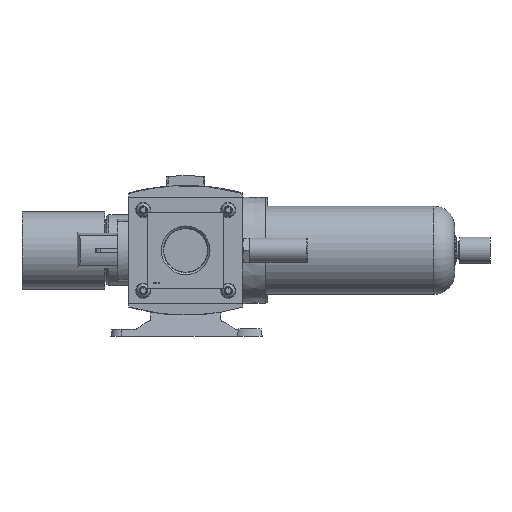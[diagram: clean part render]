
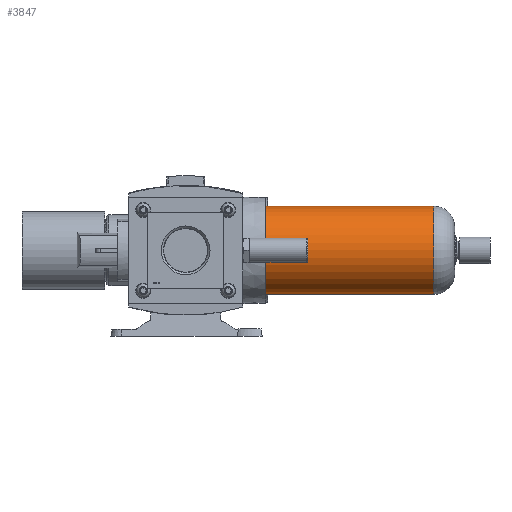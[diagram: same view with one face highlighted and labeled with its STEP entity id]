
A CAD part, left-side view. The second image highlights one B-rep face of the part: STEP entity #3847.
In plain terms, the highlighted cylindrical face has radius 31.75 mm (diameter 63.5 mm), a full revolution.
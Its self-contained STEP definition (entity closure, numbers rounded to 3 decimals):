
#3847 = ADVANCED_FACE( '', ( #7780, #7781 ), #7782, .T. );
#7780 = FACE_OUTER_BOUND( '', #11751, .T. );
#7781 = FACE_OUTER_BOUND( '', #11752, .T. );
#7782 = CYLINDRICAL_SURFACE( '', #11753, 31.75 );
#11751 = EDGE_LOOP( '', ( #21500 ) );
#11752 = EDGE_LOOP( '', ( #21501 ) );
#11753 = AXIS2_PLACEMENT_3D( '', #21502, #21503, #21504 );
#21500 = ORIENTED_EDGE( '', *, *, #25155, .F. );
#21501 = ORIENTED_EDGE( '', *, *, #23532, .T. );
#21502 = CARTESIAN_POINT( '', ( 0., -136.7, 0. ) );
#21503 = DIRECTION( '', ( 0., 1., 0. ) );
#21504 = DIRECTION( '', ( 0., 0., -1. ) );
#23532 = EDGE_CURVE( '', #28218, #28218, #28219, .T. );
#25155 = EDGE_CURVE( '', #30696, #30696, #30697, .T. );
#28218 = VERTEX_POINT( '', #34821 );
#28219 = CIRCLE( '', #34822, 31.75 );
#30696 = VERTEX_POINT( '', #38606 );
#30697 = CIRCLE( '', #38607, 31.75 );
#34821 = CARTESIAN_POINT( '', ( 0., 0., -31.75 ) );
#34822 = AXIS2_PLACEMENT_3D( '', #42330, #42331, #42332 );
#38606 = CARTESIAN_POINT( '', ( 0., -121.1, -31.75 ) );
#38607 = AXIS2_PLACEMENT_3D( '', #44159, #44160, #44161 );
#42330 = CARTESIAN_POINT( '', ( 0., 0., 0. ) );
#42331 = DIRECTION( '', ( 0., -1., 0. ) );
#42332 = DIRECTION( '', ( 0., 0., -1. ) );
#44159 = CARTESIAN_POINT( '', ( 0., -121.1, 0. ) );
#44160 = DIRECTION( '', ( 0., -1., 0. ) );
#44161 = DIRECTION( '', ( 0., 0., -1. ) );
